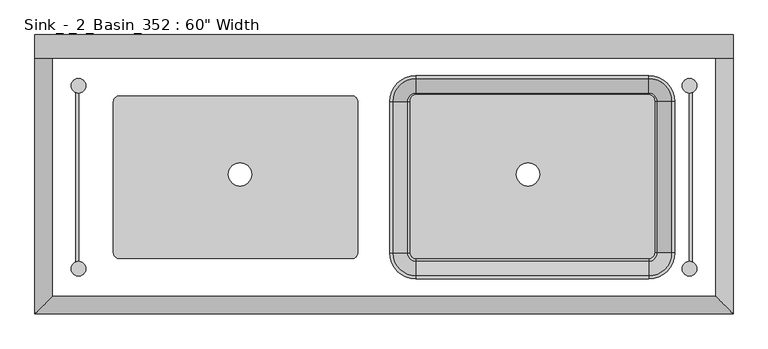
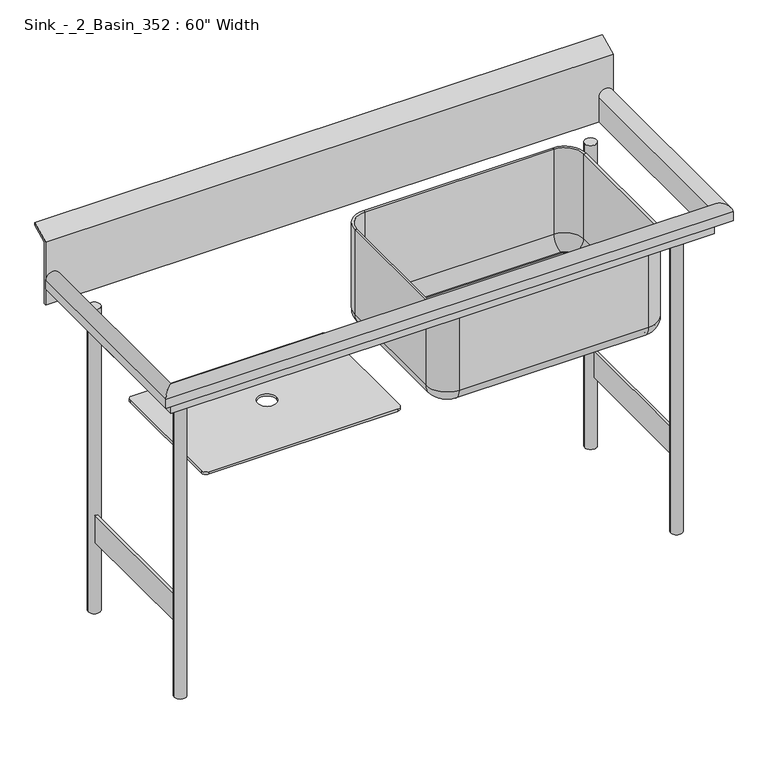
"""IFC4 building model written with IfcOpenShell, lengths in millimetres: flow terminal geometry."""

from ifc_helpers import new_model, si_unit, point, frame, frame_2d, origin, origin_with_axes, place, context, project, spatial, polyline, circle_curve, ellipse_curve, trimmed, segment, composite_curve, outline, extrude, source, transform, mapped, element, save
from ifc_brep_helpers import plane_surface, cylinder_surface, revolved_surface, advanced_brep


def flow_terminal_32be4649(model_context):
    return source(origin(), model_context, "Body", "SolidModel", [
        extrude(outline(polyline([(-651.0607594, 126.1704011), (-651.0607594, -273.8795989), (-657.4107594, -273.8795989), (-657.4107594, 126.1704011), (-651.0607594, 126.1704011)])), frame((0.0, 0.0, 203.2), z_axis=(0.0, 0.0, 1.0), x_axis=(1.0, 0.0, 0.0)), (0.0, 0.0, 1.0), 76.2),
        extrude(outline(polyline([(682.4392406, 126.1704011), (688.7892406, 126.1704011), (688.7892406, -273.8795989), (682.4392406, -273.8795989), (682.4392406, 126.1704011)])), frame((0.0, 0.0, 203.2), z_axis=(0.0, 0.0, 1.0), x_axis=(1.0, 0.0, 0.0)), (0.0, 0.0, 1.0), 76.2),
        extrude(outline(composite_curve([segment(trimmed(circle_curve(frame_2d((-651.0607594, 126.1704011)), 15.875), [point((-666.9357594, 126.1704011))], [point((-635.1857594, 126.1704011))], False, "CARTESIAN"), True, "CONTINUOUS"), segment(trimmed(circle_curve(frame_2d((-651.0607594, 126.1704011)), 15.875), [point((-635.1857594, 126.1704011))], [point((-666.9357594, 126.1704011))], False, "CARTESIAN"), True, "CONTINUOUS")], self_intersect=False)), origin_with_axes(), (0.0, 0.0, 1.0), 863.6),
        extrude(outline(composite_curve([segment(trimmed(circle_curve(frame_2d((-651.0607594, -273.8795989)), 15.875), [point((-666.9357594, -273.8795989))], [point((-635.1857594, -273.8795989))], False, "CARTESIAN"), True, "CONTINUOUS"), segment(trimmed(circle_curve(frame_2d((-651.0607594, -273.8795989)), 15.875), [point((-635.1857594, -273.8795989))], [point((-666.9357594, -273.8795989))], False, "CARTESIAN"), True, "CONTINUOUS")], self_intersect=False)), origin_with_axes(), (0.0, 0.0, 1.0), 863.6),
        extrude(outline(composite_curve([segment(trimmed(circle_curve(frame_2d((682.4392406, -273.8795989)), 15.875), [point((666.5642406, -273.8795989))], [point((698.3142406, -273.8795989))], False, "CARTESIAN"), True, "CONTINUOUS"), segment(trimmed(circle_curve(frame_2d((682.4392406, -273.8795989)), 15.875), [point((698.3142406, -273.8795989))], [point((666.5642406, -273.8795989))], False, "CARTESIAN"), True, "CONTINUOUS")], self_intersect=False)), origin_with_axes(), (0.0, 0.0, 1.0), 863.6),
        extrude(outline(composite_curve([segment(trimmed(circle_curve(frame_2d((682.4392406, 126.1704011)), 15.875), [point((666.5642406, 126.1704011))], [point((698.3142406, 126.1704011))], False, "CARTESIAN"), True, "CONTINUOUS"), segment(trimmed(circle_curve(frame_2d((682.4392406, 126.1704011)), 15.875), [point((698.3142406, 126.1704011))], [point((666.5642406, 126.1704011))], False, "CARTESIAN"), True, "CONTINUOUS")], self_intersect=False)), origin_with_axes(), (0.0, 0.0, 1.0), 863.6),
        advanced_brep(
        [(-708.2107594, 186.4954011, 863.6), (-714.5607594, 186.4954011, 863.6), (-714.5607594, 186.4954011, 933.45), (-739.9607594, 186.4954011, 933.45), (-739.9607594, 186.4954011, 908.05), (-746.3107594, 186.4954011, 908.05), (-746.3107594, 186.4954011, 933.45), (-708.2107594, 186.4954011, 933.45), (-708.2107594, -334.2045989, 863.6), (-714.5607594, -340.5545989, 863.6), (-714.5607594, -340.5545989, 933.45), (-739.9607594, -365.9545989, 933.45), (-739.9607594, -365.9545989, 908.05), (-746.3107594, -372.3045989, 908.05), (-746.3107594, -372.3045989, 933.45), (-708.2107594, -334.2045989, 933.45), (739.5892406, -334.2045989, 863.6), (745.9392406, -340.5545989, 863.6), (745.9392406, -340.5545989, 933.45), (771.3392406, -365.9545989, 933.45), (771.3392406, -365.9545989, 908.05), (777.6892406, -372.3045989, 908.05), (777.6892406, -372.3045989, 933.45), (739.5892406, -334.2045989, 933.45), (739.5892406, 186.4954011, 863.6), (739.5892406, 186.4954011, 933.45), (777.6892406, 186.4954011, 933.45), (777.6892406, 186.4954011, 908.05), (771.3392406, 186.4954011, 908.05), (771.3392406, 186.4954011, 933.45), (745.9392406, 186.4954011, 933.45), (745.9392406, 186.4954011, 863.6)],
        [
            (0, 1),
            (1, 2),
            (2, 3, circle_curve(frame((-727.2607594, 186.4954011, 933.45), z_axis=(0.0, -1.0, 0.0), x_axis=(1.0, 0.0, 0.0)), 12.7)),
            (3, 4),
            (4, 5),
            (5, 6),
            (6, 7, circle_curve(frame((-727.2607594, 186.4954011, 933.45), z_axis=(0.0, 1.0, 0.0), x_axis=(1.0, 0.0, 0.0)), 19.05)),
            (7, 0),
            (0, 8),
            (8, 9),
            (9, 1),
            (9, 10),
            (10, 2),
            (10, 11, ellipse_curve(frame((-727.2607594, -353.2545989, 933.45), z_axis=(0.7071067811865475, -0.7071067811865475, 0.0), x_axis=(-0.7071067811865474, -0.7071067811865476, 0.0)), 17.9605122, 12.7)),
            (11, 3),
            (11, 12),
            (12, 4),
            (12, 13),
            (13, 5),
            (13, 14),
            (14, 6),
            (14, 15, ellipse_curve(frame((-727.2607594, -353.2545989, 933.45), z_axis=(-0.7071067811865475, 0.7071067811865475, 0.0), x_axis=(0.7071067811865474, 0.7071067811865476, 0.0)), 26.9407684, 19.05)),
            (15, 7),
            (15, 8),
            (8, 16),
            (16, 17),
            (17, 9),
            (17, 18),
            (18, 10),
            (18, 19, ellipse_curve(frame((758.6392406, -353.2545989, 933.45), z_axis=(0.7071067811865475, 0.7071067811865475, 0.0), x_axis=(0.7071067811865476, -0.7071067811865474, 0.0)), 17.9605122, 12.7)),
            (19, 11),
            (19, 20),
            (20, 12),
            (20, 21),
            (21, 13),
            (21, 22),
            (22, 14),
            (22, 23, ellipse_curve(frame((758.6392406, -353.2545989, 933.45), z_axis=(-0.7071067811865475, -0.7071067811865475, 0.0), x_axis=(-0.7071067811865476, 0.7071067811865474, 0.0)), 26.9407684, 19.05)),
            (23, 15),
            (23, 16),
            (24, 25),
            (25, 26, circle_curve(frame((758.6392406, 186.4954011, 933.45), z_axis=(0.0, 1.0, 0.0), x_axis=(-1.0, 0.0, 0.0)), 19.05)),
            (26, 27),
            (27, 28),
            (28, 29),
            (29, 30, circle_curve(frame((758.6392406, 186.4954011, 933.45), z_axis=(0.0, -1.0, 0.0), x_axis=(-1.0, 0.0, 0.0)), 12.7)),
            (30, 31),
            (31, 24),
            (16, 24),
            (31, 17),
            (30, 18),
            (29, 19),
            (28, 20),
            (27, 21),
            (26, 22),
            (25, 23),
        ],
        [
            plane_surface(frame((-837.2289232, 186.4954011, 863.6), z_axis=(0.0, 1.0, 0.0), x_axis=(0.0, 0.0, -1.0))),
            plane_surface(frame((-708.2107594, 186.4954011, 863.6), z_axis=(0.0, 0.0, -1.0), x_axis=(0.0, -1.0, 0.0))),
            plane_surface(frame((-714.5607594, 186.4954011, 863.6), z_axis=(-1.0, 0.0, 0.0), x_axis=(0.0, -1.0, 0.0))),
            revolved_surface(polyline([(-714.5607593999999, -365.95459890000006, 933.45), (-714.5607593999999, 186.4954011, 933.45)]), (-727.2607594, 186.4954011, 933.45), (0.0, -1.0, 0.0)),
            plane_surface(frame((-739.9607594, 186.4954011, 933.45), z_axis=(1.0, 0.0, 0.0), x_axis=(0.0, -1.0, 0.0))),
            plane_surface(frame((-739.9607594, 186.4954011, 908.05), z_axis=(0.0, 0.0, -1.0), x_axis=(0.0, -1.0, 0.0))),
            plane_surface(frame((-746.3107594, 186.4954011, 908.05), z_axis=(-1.0, 0.0, 0.0), x_axis=(0.0, -1.0, 0.0))),
            cylinder_surface(frame((-727.2607594, 186.4954011, 933.45), z_axis=(0.0, 1.0, 0.0), x_axis=(1.0, 0.0, 0.0)), 19.05),
            plane_surface(frame((-708.2107594, 186.4954011, 933.45), z_axis=(1.0, 0.0, 0.0), x_axis=(0.0, -1.0, 0.0))),
            plane_surface(frame((-708.2107594, -334.2045989, 863.6), z_axis=(0.0, 0.0, -1.0), x_axis=(1.0, 0.0, 0.0))),
            plane_surface(frame((-714.5607594, -340.5545989, 863.6), z_axis=(0.0, -1.0, 0.0), x_axis=(1.0, 0.0, 0.0))),
            revolved_surface(polyline([(771.3392406, -340.55459890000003, 933.45), (-739.9607594, -340.55459890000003, 933.45)]), (-746.3107594, -353.2545989, 933.45), (1.0, 0.0, 0.0)),
            plane_surface(frame((-739.9607594, -365.9545989, 933.45), z_axis=(0.0, 1.0, 0.0), x_axis=(1.0, 0.0, 0.0))),
            plane_surface(frame((-739.9607594, -365.9545989, 908.05), z_axis=(0.0, 0.0, -1.0), x_axis=(1.0, 0.0, 0.0))),
            plane_surface(frame((-746.3107594, -372.3045989, 908.05), z_axis=(0.0, -1.0, 0.0), x_axis=(1.0, 0.0, 0.0))),
            cylinder_surface(frame((-746.3107594, -353.2545989, 933.45), z_axis=(-1.0, 0.0, 0.0), x_axis=(0.0, 1.0, 0.0)), 19.05),
            plane_surface(frame((-708.2107594, -334.2045989, 933.45), z_axis=(0.0, 1.0, 0.0), x_axis=(1.0, 0.0, 0.0))),
            plane_surface(frame((686.7710768, 186.4954011, 863.6), z_axis=(0.0, 1.0, 0.0), x_axis=(0.0, 0.0, 1.0))),
            plane_surface(frame((739.5892406, -334.2045989, 863.6), z_axis=(0.0, 0.0, -1.0), x_axis=(0.0, 1.0, 0.0))),
            plane_surface(frame((745.9392406, -340.5545989, 863.6), z_axis=(1.0, 0.0, 0.0), x_axis=(0.0, 1.0, 0.0))),
            revolved_surface(polyline([(745.9392406, 186.49540109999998, 933.45), (745.9392406, -365.9545989, 933.45)]), (758.6392406, -372.3045989, 933.45), (0.0, 1.0, 0.0)),
            plane_surface(frame((771.3392406, -365.9545989, 933.45), z_axis=(-1.0, 0.0, 0.0), x_axis=(0.0, 1.0, 0.0))),
            plane_surface(frame((771.3392406, -365.9545989, 908.05), z_axis=(0.0, 0.0, -1.0), x_axis=(0.0, 1.0, 0.0))),
            plane_surface(frame((777.6892406, -372.3045989, 908.05), z_axis=(1.0, 0.0, 0.0), x_axis=(0.0, 1.0, 0.0))),
            cylinder_surface(frame((758.6392406, -372.3045989, 933.45), z_axis=(0.0, -1.0, 0.0), x_axis=(-1.0, 0.0, 0.0)), 19.05),
            plane_surface(frame((739.5892406, -334.2045989, 933.45), z_axis=(-1.0, 0.0, 0.0), x_axis=(0.0, 1.0, 0.0))),
        ],
        [
            (0, [[1, 2, 3, 4, 5, 6, 7, 8]]),
            (1, [[-1, 9, 10, 11]]),
            (2, [[-2, -11, 12, 13]]),
            (3, [[-3, -13, 14, 15]]),
            (4, [[-4, -15, 16, 17]]),
            (5, [[-5, -17, 18, 19]]),
            (6, [[-6, -19, 20, 21]]),
            (7, [[-7, -21, 22, 23]]),
            (8, [[-8, -23, 24, -9]]),
            (9, [[-10, 25, 26, 27]]),
            (10, [[-12, -27, 28, 29]]),
            (11, [[-14, -29, 30, 31]]),
            (12, [[-16, -31, 32, 33]]),
            (13, [[-18, -33, 34, 35]]),
            (14, [[-20, -35, 36, 37]]),
            (15, [[-22, -37, 38, 39]]),
            (16, [[-24, -39, 40, -25]]),
            (17, [[41, 42, 43, 44, 45, 46, 47, 48]]),
            (18, [[-26, 49, -48, 50]]),
            (19, [[-28, -50, -47, 51]]),
            (20, [[-30, -51, -46, 52]]),
            (21, [[-32, -52, -45, 53]]),
            (22, [[-34, -53, -44, 54]]),
            (23, [[-36, -54, -43, 55]]),
            (24, [[-38, -55, -42, 56]]),
            (25, [[-40, -56, -41, -49]]),
        ],
    ),
        extrude(outline(polyline([(186.4954011, 1042.2025326), (237.2954011, 1066.8), (237.2954011, 1059.7447765), (192.8454011, 1038.2219925), (192.8454011, 863.6), (186.4954011, 863.6), (186.4954011, 1042.2025326)])), frame((-746.3107594, 0.0, 0.0), z_axis=(1.0, 0.0, 0.0), x_axis=(0.0, 1.0, 0.0)), (0.0, 0.0, 1.0), 1524.0),
        extrude(outline(composite_curve([segment(trimmed(circle_curve(frame_2d((593.5392406, 93.8338193)), 12.7), [point((593.5392406, 106.5338193))], [point((606.2392406, 93.8338193))], False, "CARTESIAN"), True, "CONTINUOUS"), segment(polyline([(606.2392406, 93.8338193), (606.2392406, -238.9545989)]), True, "CONTINUOUS"), segment(trimmed(circle_curve(frame_2d((593.5392406, -238.9545989)), 12.7), [point((606.2392406, -238.9545989))], [point((593.5392406, -251.6545989))], False, "CARTESIAN"), True, "CONTINUOUS"), segment(polyline([(593.5392406, -251.6545989), (85.5392406, -251.6545989)]), True, "CONTINUOUS"), segment(trimmed(circle_curve(frame_2d((85.5392406, -238.9545989)), 12.7), [point((85.5392406, -251.6545989))], [point((72.8392406, -238.9545989))], False, "CARTESIAN"), True, "CONTINUOUS"), segment(polyline([(72.8392406, -238.9545989), (72.8392406, 93.8338193)]), True, "CONTINUOUS"), segment(trimmed(circle_curve(frame_2d((85.5392406, 93.8338193)), 12.7), [point((72.8392406, 93.8338193))], [point((85.5392406, 106.5338193))], False, "CARTESIAN"), True, "CONTINUOUS"), segment(polyline([(85.5392406, 106.5338193), (593.5392406, 106.5338193)]), True, "CONTINUOUS")], self_intersect=False), holes=[composite_curve([segment(trimmed(circle_curve(frame_2d((330.0142406, -67.5045989)), 25.4), [point((304.6142406, -67.5045989))], [point((355.4142406, -67.5045989))], True, "CARTESIAN"), True, "CONTINUOUS"), segment(trimmed(circle_curve(frame_2d((330.0142406, -67.5045989)), 25.4), [point((355.4142406, -67.5045989))], [point((304.6142406, -67.5045989))], True, "CARTESIAN"), True, "CONTINUOUS")], self_intersect=False)]), frame((0.0, 0.0, 584.2), z_axis=(0.0, 0.0, 1.0), x_axis=(1.0, 0.0, 0.0)), (0.0, 0.0, 1.0), 6.35),
        advanced_brep(
        [(34.7392406, 91.2454011, 863.6), (85.5392406, 142.0454011, 863.6), (85.5392406, 148.3954011, 863.6), (28.3892406, 91.2454011, 863.6), (34.7392406, 91.2454011, 622.3), (85.5392406, 142.0454011, 622.3), (66.4892406, 91.2454011, 590.55), (85.5392406, 110.2954011, 590.55), (72.8392406, 91.2454011, 590.55), (85.5392406, 103.9454011, 590.55), (72.8392406, 91.2454011, 584.2), (85.5392406, 103.9454011, 584.2), (66.4892406, 91.2454011, 584.2), (85.5392406, 110.2954011, 584.2), (28.3892406, 91.2454011, 622.3), (85.5392406, 148.3954011, 622.3), (28.3892406, -238.9545989, 863.6), (34.7392406, -238.9545989, 863.6), (34.7392406, -238.9545989, 622.3), (66.4892406, -238.9545989, 590.55), (72.8392406, -238.9545989, 590.55), (72.8392406, -238.9545989, 584.2), (66.4892406, -238.9545989, 584.2), (28.3892406, -238.9545989, 622.3), (85.5392406, -289.7545989, 863.6), (85.5392406, -296.1045989, 863.6), (85.5392406, -289.7545989, 622.3), (85.5392406, -258.0045989, 590.55), (85.5392406, -251.6545989, 590.55), (85.5392406, -251.6545989, 584.2), (85.5392406, -258.0045989, 584.2), (85.5392406, -296.1045989, 622.3), (593.5392406, -296.1045989, 863.6), (593.5392406, -289.7545989, 863.6), (593.5392406, -289.7545989, 622.3), (593.5392406, -258.0045989, 590.55), (593.5392406, -251.6545989, 590.55), (593.5392406, -251.6545989, 584.2), (593.5392406, -258.0045989, 584.2), (593.5392406, -296.1045989, 622.3), (644.3392406, -238.9545989, 863.6), (650.6892406, -238.9545989, 863.6), (644.3392406, -238.9545989, 622.3), (612.5892406, -238.9545989, 590.55), (606.2392406, -238.9545989, 590.55), (606.2392406, -238.9545989, 584.2), (612.5892406, -238.9545989, 584.2), (650.6892406, -238.9545989, 622.3), (650.6892406, 91.2454011, 863.6), (644.3392406, 91.2454011, 863.6), (644.3392406, 91.2454011, 622.3), (612.5892406, 91.2454011, 590.55), (606.2392406, 91.2454011, 590.55), (606.2392406, 91.2454011, 584.2), (612.5892406, 91.2454011, 584.2), (650.6892406, 91.2454011, 622.3), (593.5392406, 142.0454011, 863.6), (593.5392406, 148.3954011, 863.6), (593.5392406, 142.0454011, 622.3), (593.5392406, 110.2954011, 590.55), (593.5392406, 103.9454011, 590.55), (593.5392406, 103.9454011, 584.2), (593.5392406, 110.2954011, 584.2), (593.5392406, 148.3954011, 622.3)],
        [
            (0, 1, circle_curve(frame((85.5392406, 91.2454011, 863.6), z_axis=(0.0, 0.0, -1.0), x_axis=(0.0, 1.0, 0.0)), 50.8)),
            (1, 2),
            (2, 3, circle_curve(frame((85.5392406, 91.2454011, 863.6), z_axis=(0.0, 0.0, 1.0), x_axis=(0.0, 1.0, 0.0)), 57.15)),
            (3, 0),
            (4, 5, circle_curve(frame((85.5392406, 91.2454011, 622.3), z_axis=(0.0, 0.0, -1.0), x_axis=(0.0, 1.0, 0.0)), 50.8)),
            (5, 1),
            (0, 4),
            (6, 7, circle_curve(frame((85.5392406, 91.2454011, 590.55), z_axis=(0.0, 0.0, -1.0), x_axis=(0.0, 1.0, 0.0)), 19.05)),
            (7, 5, circle_curve(frame((85.5392406, 110.2954011, 622.3), z_axis=(1.0, 0.0, 0.0), x_axis=(0.0, -1.0, 0.0)), 31.75)),
            (4, 6, circle_curve(frame((66.4892406, 91.2454011, 622.3), z_axis=(0.0, -1.0, 0.0), x_axis=(1.0, 0.0, 0.0)), 31.75)),
            (8, 9, circle_curve(frame((85.5392406, 91.2454011, 590.55), z_axis=(0.0, 0.0, -1.0), x_axis=(0.0, 1.0, 0.0)), 12.7)),
            (9, 7),
            (6, 8),
            (10, 11, circle_curve(frame((85.5392406, 91.2454011, 584.2), z_axis=(0.0, 0.0, -1.0), x_axis=(0.0, 1.0, 0.0)), 12.7)),
            (11, 9),
            (8, 10),
            (12, 13, circle_curve(frame((85.5392406, 91.2454011, 584.2), z_axis=(0.0, 0.0, -1.0), x_axis=(0.0, 1.0, 0.0)), 19.05)),
            (13, 11),
            (10, 12),
            (14, 15, circle_curve(frame((85.5392406, 91.2454011, 622.3), z_axis=(0.0, 0.0, -1.0), x_axis=(0.0, 1.0, 0.0)), 57.15)),
            (15, 13, circle_curve(frame((85.5392406, 110.2954011, 622.3), z_axis=(-1.0, 0.0, 0.0), x_axis=(0.0, -1.0, 0.0)), 38.1)),
            (12, 14, circle_curve(frame((66.4892406, 91.2454011, 622.3), z_axis=(0.0, 1.0, 0.0), x_axis=(1.0, 0.0, 0.0)), 38.1)),
            (2, 15),
            (14, 3),
            (3, 16),
            (16, 17),
            (17, 0),
            (17, 18),
            (18, 4),
            (18, 19, circle_curve(frame((66.4892406, -238.9545989, 622.3), z_axis=(0.0, -1.0, 0.0), x_axis=(1.0, 0.0, 0.0)), 31.75)),
            (19, 6),
            (19, 20),
            (20, 8),
            (20, 21),
            (21, 10),
            (21, 22),
            (22, 12),
            (22, 23, circle_curve(frame((66.4892406, -238.9545989, 622.3), z_axis=(0.0, 1.0, 0.0), x_axis=(1.0, 0.0, 0.0)), 38.1)),
            (23, 14),
            (23, 16),
            (24, 17, circle_curve(frame((85.5392406, -238.9545989, 863.6), z_axis=(0.0, 0.0, -1.0), x_axis=(-1.0, 0.0, 0.0)), 50.8)),
            (16, 25, circle_curve(frame((85.5392406, -238.9545989, 863.6), z_axis=(0.0, 0.0, 1.0), x_axis=(-1.0, 0.0, 0.0)), 57.15)),
            (25, 24),
            (26, 18, circle_curve(frame((85.5392406, -238.9545989, 622.3), z_axis=(0.0, 0.0, -1.0), x_axis=(-1.0, 0.0, 0.0)), 50.8)),
            (24, 26),
            (27, 19, circle_curve(frame((85.5392406, -238.9545989, 590.55), z_axis=(0.0, 0.0, -1.0), x_axis=(-1.0, 0.0, 0.0)), 19.05)),
            (26, 27, circle_curve(frame((85.5392406, -258.0045989, 622.3), z_axis=(1.0, 0.0, 0.0), x_axis=(0.0, 1.0, 0.0)), 31.75)),
            (28, 20, circle_curve(frame((85.5392406, -238.9545989, 590.55), z_axis=(0.0, 0.0, -1.0), x_axis=(-1.0, 0.0, 0.0)), 12.7)),
            (27, 28),
            (29, 21, circle_curve(frame((85.5392406, -238.9545989, 584.2), z_axis=(0.0, 0.0, -1.0), x_axis=(-1.0, 0.0, 0.0)), 12.7)),
            (28, 29),
            (30, 22, circle_curve(frame((85.5392406, -238.9545989, 584.2), z_axis=(0.0, 0.0, -1.0), x_axis=(-1.0, 0.0, 0.0)), 19.05)),
            (29, 30),
            (31, 23, circle_curve(frame((85.5392406, -238.9545989, 622.3), z_axis=(0.0, 0.0, -1.0), x_axis=(-1.0, 0.0, 0.0)), 57.15)),
            (30, 31, circle_curve(frame((85.5392406, -258.0045989, 622.3), z_axis=(-1.0, 0.0, 0.0), x_axis=(0.0, 1.0, 0.0)), 38.1)),
            (31, 25),
            (25, 32),
            (32, 33),
            (33, 24),
            (33, 34),
            (34, 26),
            (34, 35, circle_curve(frame((593.5392406, -258.0045989, 622.3), z_axis=(1.0, 0.0, 0.0), x_axis=(0.0, 1.0, 0.0)), 31.75)),
            (35, 27),
            (35, 36),
            (36, 28),
            (36, 37),
            (37, 29),
            (37, 38),
            (38, 30),
            (38, 39, circle_curve(frame((593.5392406, -258.0045989, 622.3), z_axis=(-1.0, 0.0, 0.0), x_axis=(0.0, 1.0, 0.0)), 38.1)),
            (39, 31),
            (39, 32),
            (40, 33, circle_curve(frame((593.5392406, -238.9545989, 863.6), z_axis=(0.0, 0.0, -1.0), x_axis=(0.0, -1.0, 0.0)), 50.8)),
            (32, 41, circle_curve(frame((593.5392406, -238.9545989, 863.6), z_axis=(0.0, 0.0, 1.0), x_axis=(0.0, -1.0, 0.0)), 57.15)),
            (41, 40),
            (42, 34, circle_curve(frame((593.5392406, -238.9545989, 622.3), z_axis=(0.0, 0.0, -1.0), x_axis=(0.0, -1.0, 0.0)), 50.8)),
            (40, 42),
            (43, 35, circle_curve(frame((593.5392406, -238.9545989, 590.55), z_axis=(0.0, 0.0, -1.0), x_axis=(0.0, -1.0, 0.0)), 19.05)),
            (42, 43, circle_curve(frame((612.5892406, -238.9545989, 622.3), z_axis=(0.0, 1.0, 0.0), x_axis=(-1.0, 0.0, 0.0)), 31.75)),
            (44, 36, circle_curve(frame((593.5392406, -238.9545989, 590.55), z_axis=(0.0, 0.0, -1.0), x_axis=(0.0, -1.0, 0.0)), 12.7)),
            (43, 44),
            (45, 37, circle_curve(frame((593.5392406, -238.9545989, 584.2), z_axis=(0.0, 0.0, -1.0), x_axis=(0.0, -1.0, 0.0)), 12.7)),
            (44, 45),
            (46, 38, circle_curve(frame((593.5392406, -238.9545989, 584.2), z_axis=(0.0, 0.0, -1.0), x_axis=(0.0, -1.0, 0.0)), 19.05)),
            (45, 46),
            (47, 39, circle_curve(frame((593.5392406, -238.9545989, 622.3), z_axis=(0.0, 0.0, -1.0), x_axis=(0.0, -1.0, 0.0)), 57.15)),
            (46, 47, circle_curve(frame((612.5892406, -238.9545989, 622.3), z_axis=(0.0, -1.0, 0.0), x_axis=(-1.0, 0.0, 0.0)), 38.1)),
            (47, 41),
            (41, 48),
            (48, 49),
            (49, 40),
            (49, 50),
            (50, 42),
            (50, 51, circle_curve(frame((612.5892406, 91.2454011, 622.3), z_axis=(0.0, 1.0, 0.0), x_axis=(-1.0, 0.0, 0.0)), 31.75)),
            (51, 43),
            (51, 52),
            (52, 44),
            (52, 53),
            (53, 45),
            (53, 54),
            (54, 46),
            (54, 55, circle_curve(frame((612.5892406, 91.2454011, 622.3), z_axis=(0.0, -1.0, 0.0), x_axis=(-1.0, 0.0, 0.0)), 38.1)),
            (55, 47),
            (55, 48),
            (56, 49, circle_curve(frame((593.5392406, 91.2454011, 863.6), z_axis=(0.0, 0.0, -1.0), x_axis=(1.0, 0.0, 0.0)), 50.8)),
            (48, 57, circle_curve(frame((593.5392406, 91.2454011, 863.6), z_axis=(0.0, 0.0, 1.0), x_axis=(1.0, 0.0, 0.0)), 57.15)),
            (57, 56),
            (58, 50, circle_curve(frame((593.5392406, 91.2454011, 622.3), z_axis=(0.0, 0.0, -1.0), x_axis=(1.0, 0.0, 0.0)), 50.8)),
            (56, 58),
            (59, 51, circle_curve(frame((593.5392406, 91.2454011, 590.55), z_axis=(0.0, 0.0, -1.0), x_axis=(1.0, 0.0, 0.0)), 19.05)),
            (58, 59, circle_curve(frame((593.5392406, 110.2954011, 622.3), z_axis=(-1.0, 0.0, 0.0), x_axis=(0.0, -1.0, 0.0)), 31.75)),
            (60, 52, circle_curve(frame((593.5392406, 91.2454011, 590.55), z_axis=(0.0, 0.0, -1.0), x_axis=(1.0, 0.0, 0.0)), 12.7)),
            (59, 60),
            (61, 53, circle_curve(frame((593.5392406, 91.2454011, 584.2), z_axis=(0.0, 0.0, -1.0), x_axis=(1.0, 0.0, 0.0)), 12.7)),
            (60, 61),
            (62, 54, circle_curve(frame((593.5392406, 91.2454011, 584.2), z_axis=(0.0, 0.0, -1.0), x_axis=(1.0, 0.0, 0.0)), 19.05)),
            (61, 62),
            (63, 55, circle_curve(frame((593.5392406, 91.2454011, 622.3), z_axis=(0.0, 0.0, -1.0), x_axis=(1.0, 0.0, 0.0)), 57.15)),
            (62, 63, circle_curve(frame((593.5392406, 110.2954011, 622.3), z_axis=(1.0, 0.0, 0.0), x_axis=(0.0, -1.0, 0.0)), 38.1)),
            (63, 57),
            (57, 2),
            (1, 56),
            (5, 58),
            (7, 59),
            (9, 60),
            (11, 61),
            (13, 62),
            (15, 63),
        ],
        [
            plane_surface(frame((85.5392406, 91.2454011, 863.6), z_axis=(0.0, 0.0, 1.0), x_axis=(0.0, 1.0, 0.0))),
            revolved_surface(polyline([(85.5392406, 142.0454011, 863.6), (85.5392406, 142.0454011, 622.3)]), (85.5392406, 91.2454011, 0.0), (0.0, 0.0, 1.0)),
            revolved_surface(trimmed(ellipse_curve(frame((85.5392406, 110.2954011, 622.3), z_axis=(-1.0, 0.0, 0.0), x_axis=(0.0, -1.0, 0.0)), 31.75, 31.75), [point((85.5392406, 142.0454011, 622.3))], [point((85.5392406, 110.2954011, 590.55))], True, "CARTESIAN"), (85.5392406, 91.2454011, 0.0), (0.0, 0.0, 1.0)),
            plane_surface(frame((85.5392406, 91.2454011, 590.55), z_axis=(0.0, 0.0, 1.0), x_axis=(0.0, 1.0, 0.0))),
            revolved_surface(polyline([(85.5392406, 103.9454011, 590.55), (85.5392406, 103.9454011, 584.2)]), (85.5392406, 91.2454011, 0.0), (0.0, 0.0, 1.0)),
            plane_surface(frame((85.5392406, 91.2454011, 584.2), z_axis=(0.0, 0.0, -1.0), x_axis=(0.0, 1.0, 0.0))),
            revolved_surface(trimmed(ellipse_curve(frame((85.5392406, 110.2954011, 622.3), z_axis=(1.0, 0.0, 0.0), x_axis=(0.0, -1.0, 0.0)), 38.1, 38.1), [point((85.5392406, 110.2954011, 584.2))], [point((85.5392406, 148.3954011, 622.3))], True, "CARTESIAN"), (85.5392406, 91.2454011, 0.0), (0.0, 0.0, 1.0)),
            cylinder_surface(frame((85.5392406, 91.2454011, 0.0), z_axis=(0.0, 0.0, 1.0), x_axis=(0.0, 1.0, 0.0)), 57.15),
            plane_surface(frame((28.3892406, 91.2454011, 863.6), z_axis=(0.0, 0.0, 1.0), x_axis=(0.0, -1.0, 0.0))),
            plane_surface(frame((34.7392406, 91.2454011, 863.6), z_axis=(1.0, 0.0, 0.0), x_axis=(0.0, -1.0, 0.0))),
            revolved_surface(polyline([(98.2392406, -238.9545989, 622.3), (98.2392406, 91.2454011, 622.3)]), (66.4892406, 91.2454011, 622.3), (0.0, -1.0, 0.0)),
            plane_surface(frame((66.4892406, 91.2454011, 590.55), z_axis=(0.0, 0.0, 1.0), x_axis=(0.0, -1.0, 0.0))),
            plane_surface(frame((72.8392406, 91.2454011, 590.55), z_axis=(1.0, 0.0, 0.0), x_axis=(0.0, -1.0, 0.0))),
            plane_surface(frame((72.8392406, 91.2454011, 584.2), z_axis=(0.0, 0.0, -1.0), x_axis=(0.0, -1.0, 0.0))),
            cylinder_surface(frame((66.4892406, 91.2454011, 622.3), z_axis=(0.0, 1.0, 0.0), x_axis=(1.0, 0.0, 0.0)), 38.1),
            plane_surface(frame((28.3892406, 91.2454011, 622.3), z_axis=(-1.0, 0.0, 0.0), x_axis=(0.0, -1.0, 0.0))),
            plane_surface(frame((85.5392406, -238.9545989, 863.6), z_axis=(0.0, 0.0, 1.0), x_axis=(-1.0, 0.0, 0.0))),
            revolved_surface(polyline([(34.7392406, -238.9545989, 863.6), (34.7392406, -238.9545989, 622.3)]), (85.5392406, -238.9545989, 0.0), (0.0, 0.0, 1.0)),
            revolved_surface(trimmed(ellipse_curve(frame((66.4892406, -238.9545989, 622.3), z_axis=(0.0, -1.0, 0.0), x_axis=(1.0, 0.0, 0.0)), 31.75, 31.75), [point((34.7392406, -238.9545989, 622.3))], [point((66.4892406, -238.9545989, 590.55))], True, "CARTESIAN"), (85.5392406, -238.9545989, 0.0), (0.0, 0.0, 1.0)),
            plane_surface(frame((85.5392406, -238.9545989, 590.55), z_axis=(0.0, 0.0, 1.0), x_axis=(-1.0, 0.0, 0.0))),
            revolved_surface(polyline([(72.8392406, -238.9545989, 590.55), (72.8392406, -238.9545989, 584.2)]), (85.5392406, -238.9545989, 0.0), (0.0, 0.0, 1.0)),
            plane_surface(frame((85.5392406, -238.9545989, 584.2), z_axis=(0.0, 0.0, -1.0), x_axis=(-1.0, 0.0, 0.0))),
            revolved_surface(trimmed(ellipse_curve(frame((66.4892406, -238.9545989, 622.3), z_axis=(0.0, 1.0, 0.0), x_axis=(1.0, 0.0, 0.0)), 38.1, 38.1), [point((66.4892406, -238.9545989, 584.2))], [point((28.3892406, -238.9545989, 622.3))], True, "CARTESIAN"), (85.5392406, -238.9545989, 0.0), (0.0, 0.0, 1.0)),
            cylinder_surface(frame((85.5392406, -238.9545989, 0.0), z_axis=(0.0, 0.0, 1.0), x_axis=(-1.0, 0.0, 0.0)), 57.15),
            plane_surface(frame((85.5392406, -296.1045989, 863.6), z_axis=(0.0, 0.0, 1.0), x_axis=(1.0, 0.0, 0.0))),
            plane_surface(frame((85.5392406, -289.7545989, 863.6), z_axis=(0.0, 1.0, 0.0), x_axis=(1.0, 0.0, 0.0))),
            revolved_surface(polyline([(593.5392406, -226.25459890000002, 622.3), (85.5392406, -226.25459890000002, 622.3)]), (85.5392406, -258.0045989, 622.3), (1.0, 0.0, 0.0)),
            plane_surface(frame((85.5392406, -258.0045989, 590.55), z_axis=(0.0, 0.0, 1.0), x_axis=(1.0, 0.0, 0.0))),
            plane_surface(frame((85.5392406, -251.6545989, 590.55), z_axis=(0.0, 1.0, 0.0), x_axis=(1.0, 0.0, 0.0))),
            plane_surface(frame((85.5392406, -251.6545989, 584.2), z_axis=(0.0, 0.0, -1.0), x_axis=(1.0, 0.0, 0.0))),
            cylinder_surface(frame((85.5392406, -258.0045989, 622.3), z_axis=(-1.0, 0.0, 0.0), x_axis=(0.0, 1.0, 0.0)), 38.1),
            plane_surface(frame((85.5392406, -296.1045989, 622.3), z_axis=(0.0, -1.0, 0.0), x_axis=(1.0, 0.0, 0.0))),
            plane_surface(frame((593.5392406, -238.9545989, 863.6), z_axis=(0.0, 0.0, 1.0), x_axis=(0.0, -1.0, 0.0))),
            revolved_surface(polyline([(593.5392406, -289.7545989, 863.6), (593.5392406, -289.7545989, 622.3)]), (593.5392406, -238.9545989, 0.0), (0.0, 0.0, 1.0)),
            revolved_surface(trimmed(ellipse_curve(frame((593.5392406, -258.0045989, 622.3), z_axis=(1.0, 0.0, 0.0), x_axis=(0.0, 1.0, 0.0)), 31.75, 31.75), [point((593.5392406, -289.7545989, 622.3))], [point((593.5392406, -258.0045989, 590.55))], True, "CARTESIAN"), (593.5392406, -238.9545989, 0.0), (0.0, 0.0, 1.0)),
            plane_surface(frame((593.5392406, -238.9545989, 590.55), z_axis=(0.0, 0.0, 1.0), x_axis=(0.0, -1.0, 0.0))),
            revolved_surface(polyline([(593.5392406, -251.6545989, 590.55), (593.5392406, -251.6545989, 584.2)]), (593.5392406, -238.9545989, 0.0), (0.0, 0.0, 1.0)),
            plane_surface(frame((593.5392406, -238.9545989, 584.2), z_axis=(0.0, 0.0, -1.0), x_axis=(0.0, -1.0, 0.0))),
            revolved_surface(trimmed(ellipse_curve(frame((593.5392406, -258.0045989, 622.3), z_axis=(-1.0, 0.0, 0.0), x_axis=(0.0, 1.0, 0.0)), 38.1, 38.1), [point((593.5392406, -258.0045989, 584.2))], [point((593.5392406, -296.1045989, 622.3))], True, "CARTESIAN"), (593.5392406, -238.9545989, 0.0), (0.0, 0.0, 1.0)),
            cylinder_surface(frame((593.5392406, -238.9545989, 0.0), z_axis=(0.0, 0.0, 1.0), x_axis=(0.0, -1.0, 0.0)), 57.15),
            plane_surface(frame((650.6892406, -238.9545989, 863.6), z_axis=(0.0, 0.0, 1.0), x_axis=(0.0, 1.0, 0.0))),
            plane_surface(frame((644.3392406, -238.9545989, 863.6), z_axis=(-1.0, 0.0, 0.0), x_axis=(0.0, 1.0, 0.0))),
            revolved_surface(polyline([(580.8392406, 91.24540109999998, 622.3), (580.8392406, -238.9545989, 622.3)]), (612.5892406, -238.9545989, 622.3), (0.0, 1.0, 0.0)),
            plane_surface(frame((612.5892406, -238.9545989, 590.55), z_axis=(0.0, 0.0, 1.0), x_axis=(0.0, 1.0, 0.0))),
            plane_surface(frame((606.2392406, -238.9545989, 590.55), z_axis=(-1.0, 0.0, 0.0), x_axis=(0.0, 1.0, 0.0))),
            plane_surface(frame((606.2392406, -238.9545989, 584.2), z_axis=(0.0, 0.0, -1.0), x_axis=(0.0, 1.0, 0.0))),
            cylinder_surface(frame((612.5892406, -238.9545989, 622.3), z_axis=(0.0, -1.0, 0.0), x_axis=(-1.0, 0.0, 0.0)), 38.1),
            plane_surface(frame((650.6892406, -238.9545989, 622.3), z_axis=(1.0, 0.0, 0.0), x_axis=(0.0, 1.0, 0.0))),
            plane_surface(frame((593.5392406, 91.2454011, 863.6), z_axis=(0.0, 0.0, 1.0), x_axis=(1.0, 0.0, 0.0))),
            revolved_surface(polyline([(644.3392405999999, 91.2454011, 863.6), (644.3392405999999, 91.2454011, 622.3)]), (593.5392406, 91.2454011, 0.0), (0.0, 0.0, 1.0)),
            revolved_surface(trimmed(ellipse_curve(frame((612.5892406, 91.2454011, 622.3), z_axis=(0.0, 1.0, 0.0), x_axis=(-1.0, 0.0, 0.0)), 31.75, 31.75), [point((644.3392406, 91.2454011, 622.3))], [point((612.5892406, 91.2454011, 590.55))], True, "CARTESIAN"), (593.5392406, 91.2454011, 0.0), (0.0, 0.0, 1.0)),
            plane_surface(frame((593.5392406, 91.2454011, 590.55), z_axis=(0.0, 0.0, 1.0), x_axis=(1.0, 0.0, 0.0))),
            revolved_surface(polyline([(606.2392406, 91.2454011, 590.55), (606.2392406, 91.2454011, 584.2)]), (593.5392406, 91.2454011, 0.0), (0.0, 0.0, 1.0)),
            plane_surface(frame((593.5392406, 91.2454011, 584.2), z_axis=(0.0, 0.0, -1.0), x_axis=(1.0, 0.0, 0.0))),
            revolved_surface(trimmed(ellipse_curve(frame((612.5892406, 91.2454011, 622.3), z_axis=(0.0, -1.0, 0.0), x_axis=(-1.0, 0.0, 0.0)), 38.1, 38.1), [point((612.5892406, 91.2454011, 584.2))], [point((650.6892406, 91.2454011, 622.3))], True, "CARTESIAN"), (593.5392406, 91.2454011, 0.0), (0.0, 0.0, 1.0)),
            cylinder_surface(frame((593.5392406, 91.2454011, 0.0), z_axis=(0.0, 0.0, 1.0), x_axis=(1.0, 0.0, 0.0)), 57.15),
            plane_surface(frame((593.5392406, 148.3954011, 863.6), z_axis=(0.0, 0.0, 1.0), x_axis=(-1.0, 0.0, 0.0))),
            plane_surface(frame((593.5392406, 142.0454011, 863.6), z_axis=(0.0, -1.0, 0.0), x_axis=(-1.0, 0.0, 0.0))),
            revolved_surface(polyline([(85.53924059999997, 78.5454011, 622.3), (593.5392406, 78.5454011, 622.3)]), (593.5392406, 110.2954011, 622.3), (-1.0, 0.0, 0.0)),
            plane_surface(frame((593.5392406, 110.2954011, 590.55), z_axis=(0.0, 0.0, 1.0), x_axis=(-1.0, 0.0, 0.0))),
            plane_surface(frame((593.5392406, 103.9454011, 590.55), z_axis=(0.0, -1.0, 0.0), x_axis=(-1.0, 0.0, 0.0))),
            plane_surface(frame((593.5392406, 103.9454011, 584.2), z_axis=(0.0, 0.0, -1.0), x_axis=(-1.0, 0.0, 0.0))),
            cylinder_surface(frame((593.5392406, 110.2954011, 622.3), z_axis=(1.0, 0.0, 0.0), x_axis=(0.0, -1.0, 0.0)), 38.1),
            plane_surface(frame((593.5392406, 148.3954011, 622.3), z_axis=(0.0, 1.0, 0.0), x_axis=(-1.0, 0.0, 0.0))),
        ],
        [
            (0, [[1, 2, 3, 4]]),
            (1, [[5, 6, -1, 7]]),
            (2, [[8, 9, -5, 10]]),
            (3, [[11, 12, -8, 13]]),
            (4, [[14, 15, -11, 16]]),
            (5, [[17, 18, -14, 19]]),
            (6, [[20, 21, -17, 22]]),
            (7, [[-3, 23, -20, 24]]),
            (8, [[-4, 25, 26, 27]]),
            (9, [[-7, -27, 28, 29]]),
            (10, [[-10, -29, 30, 31]]),
            (11, [[-13, -31, 32, 33]]),
            (12, [[-16, -33, 34, 35]]),
            (13, [[-19, -35, 36, 37]]),
            (14, [[-22, -37, 38, 39]]),
            (15, [[-24, -39, 40, -25]]),
            (16, [[41, -26, 42, 43]]),
            (17, [[44, -28, -41, 45]]),
            (18, [[46, -30, -44, 47]]),
            (19, [[48, -32, -46, 49]]),
            (20, [[50, -34, -48, 51]]),
            (21, [[52, -36, -50, 53]]),
            (22, [[54, -38, -52, 55]]),
            (23, [[-42, -40, -54, 56]]),
            (24, [[-43, 57, 58, 59]]),
            (25, [[-45, -59, 60, 61]]),
            (26, [[-47, -61, 62, 63]]),
            (27, [[-49, -63, 64, 65]]),
            (28, [[-51, -65, 66, 67]]),
            (29, [[-53, -67, 68, 69]]),
            (30, [[-55, -69, 70, 71]]),
            (31, [[-56, -71, 72, -57]]),
            (32, [[73, -58, 74, 75]]),
            (33, [[76, -60, -73, 77]]),
            (34, [[78, -62, -76, 79]]),
            (35, [[80, -64, -78, 81]]),
            (36, [[82, -66, -80, 83]]),
            (37, [[84, -68, -82, 85]]),
            (38, [[86, -70, -84, 87]]),
            (39, [[-74, -72, -86, 88]]),
            (40, [[-75, 89, 90, 91]]),
            (41, [[-77, -91, 92, 93]]),
            (42, [[-79, -93, 94, 95]]),
            (43, [[-81, -95, 96, 97]]),
            (44, [[-83, -97, 98, 99]]),
            (45, [[-85, -99, 100, 101]]),
            (46, [[-87, -101, 102, 103]]),
            (47, [[-88, -103, 104, -89]]),
            (48, [[105, -90, 106, 107]]),
            (49, [[108, -92, -105, 109]]),
            (50, [[110, -94, -108, 111]]),
            (51, [[112, -96, -110, 113]]),
            (52, [[114, -98, -112, 115]]),
            (53, [[116, -100, -114, 117]]),
            (54, [[118, -102, -116, 119]]),
            (55, [[-106, -104, -118, 120]]),
            (56, [[-107, 121, -2, 122]]),
            (57, [[-109, -122, -6, 123]]),
            (58, [[-111, -123, -9, 124]]),
            (59, [[-113, -124, -12, 125]]),
            (60, [[-115, -125, -15, 126]]),
            (61, [[-117, -126, -18, 127]]),
            (62, [[-119, -127, -21, 128]]),
            (63, [[-120, -128, -23, -121]]),
        ],
    ),
        extrude(outline(composite_curve([segment(trimmed(circle_curve(frame_2d((-54.1607594, 91.2454011)), 12.7), [point((-54.1607594, 103.9454011))], [point((-41.4607594, 91.2454011))], False, "CARTESIAN"), True, "CONTINUOUS"), segment(polyline([(-41.4607594, 91.2454011), (-41.4607594, -238.9545989)]), True, "CONTINUOUS"), segment(trimmed(circle_curve(frame_2d((-54.1607594, -238.9545989)), 12.7), [point((-41.4607594, -238.9545989))], [point((-54.1607594, -251.6545989))], False, "CARTESIAN"), True, "CONTINUOUS"), segment(polyline([(-54.1607594, -251.6545989), (-562.1607594, -251.6545989)]), True, "CONTINUOUS"), segment(trimmed(circle_curve(frame_2d((-562.1607594, -238.9545989)), 12.7), [point((-562.1607594, -251.6545989))], [point((-574.8607594, -238.9545989))], False, "CARTESIAN"), True, "CONTINUOUS"), segment(polyline([(-574.8607594, -238.9545989), (-574.8607594, 91.2454011)]), True, "CONTINUOUS"), segment(trimmed(circle_curve(frame_2d((-562.1607594, 91.2454011)), 12.7), [point((-574.8607594, 91.2454011))], [point((-562.1607594, 103.9454011))], False, "CARTESIAN"), True, "CONTINUOUS"), segment(polyline([(-562.1607594, 103.9454011), (-54.1607594, 103.9454011)]), True, "CONTINUOUS")], self_intersect=False), holes=[composite_curve([segment(trimmed(circle_curve(frame_2d((-298.6357594, -67.5045989)), 25.4), [point((-324.0357594, -67.5045989))], [point((-273.2357594, -67.5045989))], True, "CARTESIAN"), True, "CONTINUOUS"), segment(trimmed(circle_curve(frame_2d((-298.6357594, -67.5045989)), 25.4), [point((-273.2357594, -67.5045989))], [point((-324.0357594, -67.5045989))], True, "CARTESIAN"), True, "CONTINUOUS")], self_intersect=False)]), frame((0.0, 0.0, 584.2), z_axis=(0.0, 0.0, 1.0), x_axis=(1.0, 0.0, 0.0)), (0.0, 0.0, 1.0), 6.35),
    ])


if __name__ == "__main__":
    model = new_model("IFC4")
    model_context = context("Model", 3, world=origin())
    ifc_project = project(units=[si_unit("LENGTHUNIT", "METRE", prefix="MILLI")], contexts=[model_context])
    site = spatial("IfcSite", under=ifc_project)
    building = spatial("IfcBuilding", under=site)
    placement = place(None, origin())
    flow_terminal_shape = flow_terminal_32be4649(model_context)
    element("IfcFlowTerminal", 1, ObjectType="Sink_-_2_Basin_352 : 60\" Width", at=placement, inside=building, context=model_context, shape_type="MappedRepresentation", body=[
        mapped(flow_terminal_shape, transform((0.0, 0.0, 0.0), x_axis=(1.0, 0.0, 0.0), y_axis=(0.0, 1.0, 0.0), z_axis=(0.0, 0.0, 1.0))),
    ])
    save(model, "model.ifc")
